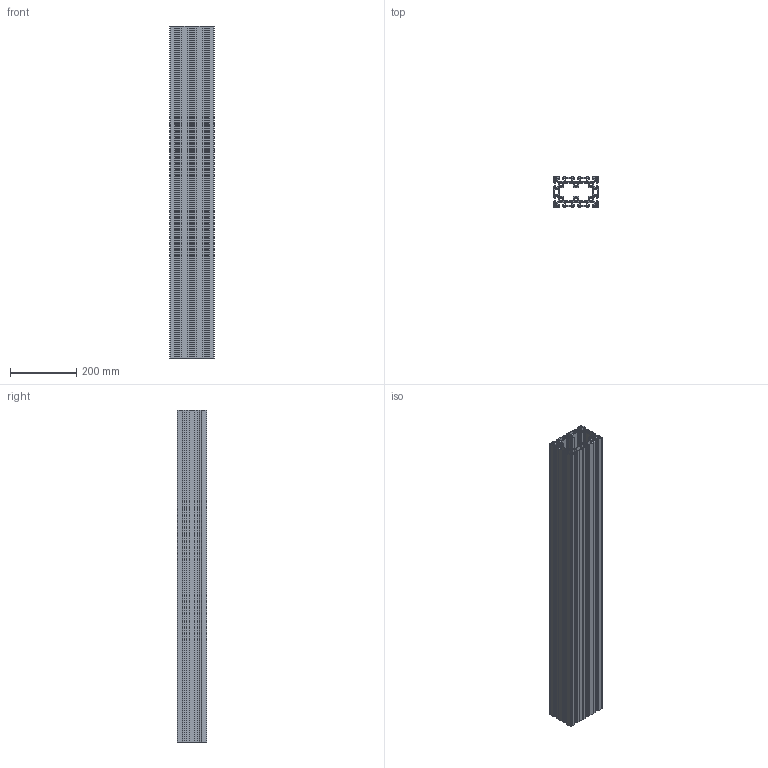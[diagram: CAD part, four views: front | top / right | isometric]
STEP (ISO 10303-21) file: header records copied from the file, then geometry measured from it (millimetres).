
FILE_DESCRIPTION (( 'STEP AP203' ), '1' );
FILE_NAME ('90x135.STEP', '2016-06-22T08:21:46', ( '' ), ( '' ), 'SwSTEP 2.0', 'SolidWorks 2016', '' );
FILE_SCHEMA (( 'CONFIG_CONTROL_DESIGN' ));
Length unit declared in the file: millimetre
Products named in the file (1): 90x135
Bounding box: 135 x 90 x 1000 mm (x, y, z)
Volume: 3441853.6 mm3; surface area: 2215306.9 mm2
Topology: 1 solids, 1 shells, 1112 faces, 3330 edges, 2220 vertices
Faces by surface type: cylinder 566, plane 546
Entity records: 37931 total; most frequent: DIRECTION 6688, CARTESIAN_POINT 6663, ORIENTED_EDGE 6660, EDGE_CURVE 3330, AXIS2_PLACEMENT_3D 2245, VERTEX_POINT 2220, VECTOR 2198, LINE 2198
